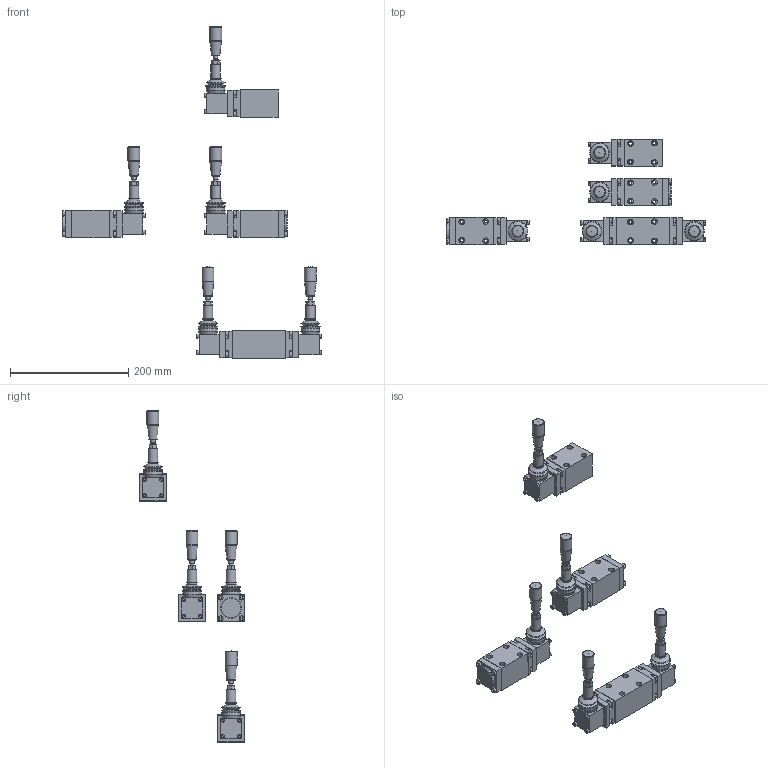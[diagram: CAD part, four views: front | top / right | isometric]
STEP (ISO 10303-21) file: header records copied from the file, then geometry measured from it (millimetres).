
FILE_DESCRIPTION(('Bauteilbeschreibung','HiCAD-Model','HiCAD-STEP-TRANSLATION','Bauteilbeschreibung'),'2;1');
FILE_NAME('C:/_EIGENE_DATEN/DXF_STEP/AH_06_4208.STP','2008-10-14T16:44:09+00:00',('Konstrukteur'),('Konstrukteur Firma GmbH'),' HiCAD neXt 2007, Step 3.1.1212.3C ','HiCAD neXt 2007','confidential');
FILE_SCHEMA(('AUTOMOTIVE_DESIGN { 1 2 10303 214 0 1 1 1 }'));
Length unit declared in the file: millimetre
Products named in the file (112): AH_06_4208; AH22061A; B9CCEBD6; AH22061A0; A47A8D8C; A47A8D8C0; IN6KTM5; IN6KTM50; IN6KTM51; IN6KTM52; IN6KTM53; A18398EF; AA546600; AA5466000; FALTENBA; GRIFF; IN6KTM4; IN6KTM40; IN6KTM41; IN6KTM42; IN6KTM43; AH32061A; AC793193; AA5466001; AA5466002; FALTENBA0; GRIFF0; IN6KTM44; IN6KTM45; IN6KTM46; IN6KTM47; IN6KTM48; A18398EF0; A47A8D8C1; A47A8D8C2; IN6KTM54; IN6KTM55; IN6KTM56; IN6KTM57; IN6KTM58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
Assembly tree (111 placements, depth 6):
  AH_06_4208
    AH22061A
      B9CCEBD6
        AH22061A0
        A47A8D8C
        A47A8D8C0
          IN6KTM5
            IN6KTM50
            IN6KTM51
            IN6KTM52
            IN6KTM53
        A18398EF
        AA546600
        AA5466000
          FALTENBA
          GRIFF
          IN6KTM4
            IN6KTM40
            IN6KTM41
            IN6KTM42
            IN6KTM43
    AH32061A
      AC793193
        AA5466001
        AA5466002
          FALTENBA0
          GRIFF0
          IN6KTM44
            IN6KTM45
            IN6KTM46
            IN6KTM47
            IN6KTM48
        A18398EF0
        A47A8D8C1
        A47A8D8C2
          IN6KTM54
            IN6KTM55
            IN6KTM56
            IN6KTM57
            IN6KTM58
        F77E93F1
        F77E93F10
          IN6KTM59
            IN6KTM510
            IN6KTM511
            IN6KTM512
            IN6KTM513
        AB294FE8
    AH_2060B
      AE916FD2
        F77E93F11
        F77E93F12
          IN6KTM514
            IN6KTM515
            IN6KTM516
            IN6KTM517
            IN6KTM518
        AB294FE80
        A47A8D8C3
        A47A8D8C4
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Bounding box: 437.5 x 178 x 560.41 mm (x, y, z)
Volume: 1197322.8 mm3; surface area: 271881.8 mm2
Topology: 79 solids, 79 shells, 1196 faces, 2783 edges, 1883 vertices
Faces by surface type: plane 730, cylinder 309, cone 127, torus 25, sphere 5
Full cylindrical faces by diameter (mm): 3.3 x20, 4 x20, 4.5 x20, 4.8 x20, 5 x28, 5.2 x8, 5.5 x36, 7 x20, 7.12 x5, 8 x25, 8.5 x28, 9.5 x16, 12.5 x16, 16 x5, 16.5 x5, 18.5 x5, 20 x5, 31 x5, 35 x2
Entity records: 36998 total; most frequent: CARTESIAN_POINT 9275, DIRECTION 5638, ORIENTED_EDGE 4370, EDGE_CURVE 2185, AXIS2_PLACEMENT_3D 2163, EDGE_LOOP 1944, VERTEX_POINT 1696, LINE 1312
